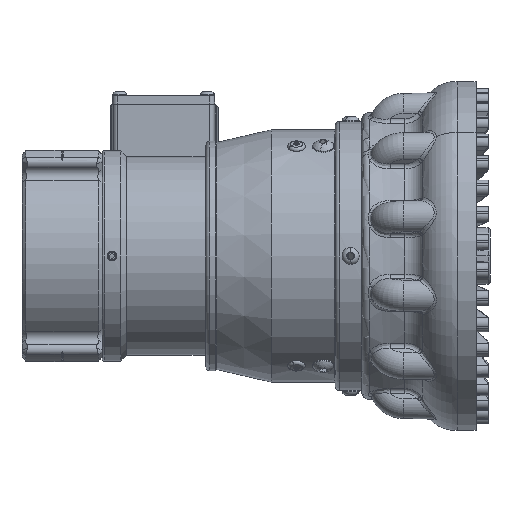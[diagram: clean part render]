
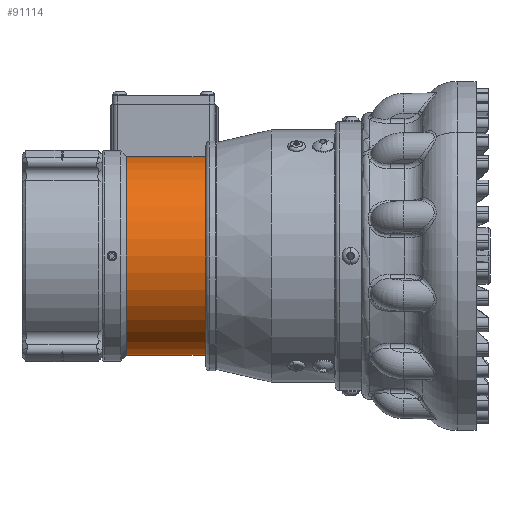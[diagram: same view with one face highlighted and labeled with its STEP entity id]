
A CAD part, front view. The second image highlights one B-rep face of the part: STEP entity #91114.
In plain terms, the highlighted cylindrical face has radius 64.77 mm (diameter 129.54 mm), a partial arc.
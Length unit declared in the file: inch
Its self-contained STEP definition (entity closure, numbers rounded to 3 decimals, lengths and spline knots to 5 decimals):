
#10099 = EDGE_CURVE ( 'NONE', #18754, #18745, #36545, .T. ) ;
#10101 = EDGE_CURVE ( 'NONE', #18747, #18746, #36547, .T. ) ;
#10133 = EDGE_CURVE ( 'NONE', #18745, #18746, #36587, .T. ) ;
#10134 = EDGE_CURVE ( 'NONE', #18754, #18747, #36588, .T. ) ;
#18745 = VERTEX_POINT ( 'NONE', #66672 ) ;
#18746 = VERTEX_POINT ( 'NONE', #66674 ) ;
#18747 = VERTEX_POINT ( 'NONE', #66675 ) ;
#18754 = VERTEX_POINT ( 'NONE', #66686 ) ;
#29941 = DIRECTION ( 'NONE',  ( 0., 0., 1. ) ) ;
#29944 = DIRECTION ( 'NONE',  ( -1., 0., 0. ) ) ;
#29945 = CARTESIAN_POINT ( 'NONE',  ( 0., 0., 0. ) ) ;
#31466 = FACE_OUTER_BOUND ( 'NONE', #37206, .T. ) ;
#31475 = CYLINDRICAL_SURFACE ( 'NONE', #70050, 2.55 ) ;
#36545 = LINE ( 'NONE', #58163, #36549 ) ;
#36547 = LINE ( 'NONE', #58175, #36552 ) ;
#36549 = VECTOR ( 'NONE', #58155, 39.37008 ) ;
#36552 = VECTOR ( 'NONE', #58159, 39.37008 ) ;
#36587 = CIRCLE ( 'NONE', #80822, 2.55 ) ;
#36588 = CIRCLE ( 'NONE', #80824, 2.55 ) ;
#37206 = EDGE_LOOP ( 'NONE', ( #53699, #53701, #53703, #53705 ) ) ;
#53699 = ORIENTED_EDGE ( 'NONE', *, *, #10099, .F. ) ;
#53701 = ORIENTED_EDGE ( 'NONE', *, *, #10134, .T. ) ;
#53703 = ORIENTED_EDGE ( 'NONE', *, *, #10101, .T. ) ;
#53705 = ORIENTED_EDGE ( 'NONE', *, *, #10133, .F. ) ;
#58155 = DIRECTION ( 'NONE',  ( -1., 0., 0. ) ) ;
#58159 = DIRECTION ( 'NONE',  ( -1., 0., 0. ) ) ;
#58163 = CARTESIAN_POINT ( 'NONE',  ( 0., 0., -2.55 ) ) ;
#58175 = CARTESIAN_POINT ( 'NONE',  ( 0., 0., 2.55 ) ) ;
#58678 = CARTESIAN_POINT ( 'NONE',  ( 1.62, 0., 0. ) ) ;
#58681 = DIRECTION ( 'NONE',  ( -1., 0., 0. ) ) ;
#58684 = DIRECTION ( 'NONE',  ( 0., 0., 1. ) ) ;
#58689 = CARTESIAN_POINT ( 'NONE',  ( 3.67, 0., 0. ) ) ;
#58692 = DIRECTION ( 'NONE',  ( -1., 0., 0. ) ) ;
#58695 = DIRECTION ( 'NONE',  ( 0., 0., 1. ) ) ;
#66672 = CARTESIAN_POINT ( 'NONE',  ( 1.62, 0., -2.55 ) ) ;
#66674 = CARTESIAN_POINT ( 'NONE',  ( 1.62, 0., 2.55 ) ) ;
#66675 = CARTESIAN_POINT ( 'NONE',  ( 3.67, 0., 2.55 ) ) ;
#66686 = CARTESIAN_POINT ( 'NONE',  ( 3.67, 0., -2.55 ) ) ;
#70050 = AXIS2_PLACEMENT_3D ( 'NONE', #29945, #29944, #29941 ) ;
#80822 = AXIS2_PLACEMENT_3D ( 'NONE', #58678, #58681, #58684 ) ;
#80824 = AXIS2_PLACEMENT_3D ( 'NONE', #58689, #58692, #58695 ) ;
#91114 = ADVANCED_FACE ( 'NONE', ( #31466 ), #31475, .T. ) ;
